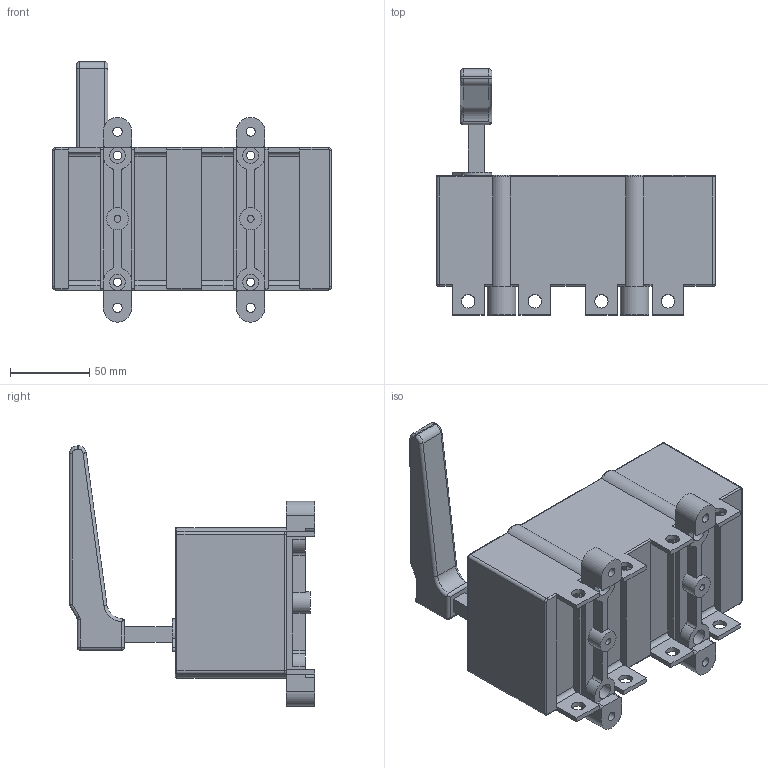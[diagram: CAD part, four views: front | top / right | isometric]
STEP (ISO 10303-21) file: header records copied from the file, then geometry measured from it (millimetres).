
FILE_DESCRIPTION(/* description */ (''),/* implementation_level */ '2;1');
FILE_NAME(/* name */ 'RA160 P3 NC-R.stp',/* time_stamp */ '2021-08-17T14:52:18+02:00',/* author */ (''),/* organization */ (''),/* preprocessor_version */ 'ST-DEVELOPER v18.1',/* originating_system */ 'SIEMENS PLM Software NX 1965',/* authorisation */ '');
FILE_SCHEMA (('AUTOMOTIVE_DESIGN { 1 0 10303 214 3 1 1 1 }'));
Length unit declared in the file: millimetre
Products named in the file (1): RA160 P3 NC-R_stp
Bounding box: 176 x 155 x 164.18 mm (x, y, z)
Volume: 1176904.1 mm3; surface area: 110005.5 mm2
Topology: 1 solids, 1 shells, 268 faces, 695 edges, 432 vertices
Faces by surface type: cylinder 122, plane 120, torus 15, sphere 6, bspline 5
Full cylindrical faces by diameter (mm): 4.3 x2, 5.3 x4, 5.8 x4, 8.5 x8, 10 x8, 14 x2
Entity records: 8118 total; most frequent: CARTESIAN_POINT 1543, DIRECTION 1411, ORIENTED_EDGE 1306, EDGE_CURVE 653, AXIS2_PLACEMENT_3D 516, VERTEX_POINT 424, LINE 379, VECTOR 379
